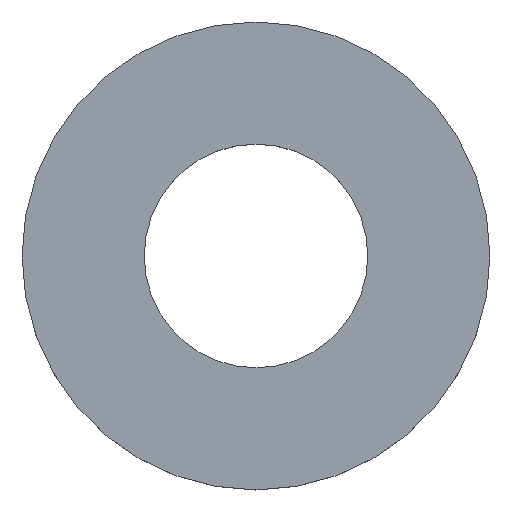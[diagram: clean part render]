
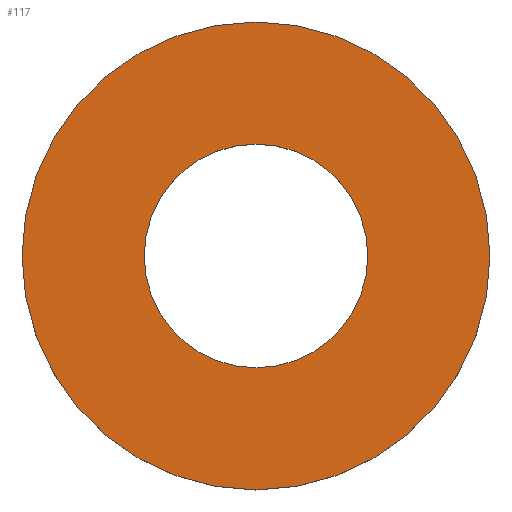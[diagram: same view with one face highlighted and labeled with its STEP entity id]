
A CAD part, top view. The second image highlights one B-rep face of the part: STEP entity #117.
In plain terms, the highlighted planar face has unit normal (0, 0, 1).
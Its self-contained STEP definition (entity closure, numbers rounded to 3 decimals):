
#15 = PLANE ( 'NONE',  #198 ) ;
#17 = EDGE_CURVE ( 'NONE', #120, #156, #153, .T. ) ;
#24 = ORIENTED_EDGE ( 'NONE', *, *, #59, .T. ) ;
#32 = FACE_OUTER_BOUND ( 'NONE', #168, .T. ) ;
#44 = FACE_BOUND ( 'NONE', #77, .T. ) ;
#46 = CARTESIAN_POINT ( 'NONE',  ( 0., 0., 1. ) ) ;
#51 = CIRCLE ( 'NONE', #133, 4.5 ) ;
#59 = EDGE_CURVE ( 'NONE', #172, #66, #134, .T. ) ;
#62 = AXIS2_PLACEMENT_3D ( 'NONE', #183, #74, #130 ) ;
#64 = CARTESIAN_POINT ( 'NONE',  ( 4.5, 0., 1. ) ) ;
#66 = VERTEX_POINT ( 'NONE', #163 ) ;
#68 = DIRECTION ( 'NONE',  ( 1., 0., 0. ) ) ;
#72 = DIRECTION ( 'NONE',  ( 1., 0., 0. ) ) ;
#74 = DIRECTION ( 'NONE',  ( 0., 0., 1. ) ) ;
#76 = CIRCLE ( 'NONE', #62, 2.15 ) ;
#77 = EDGE_LOOP ( 'NONE', ( #78, #105 ) ) ;
#78 = ORIENTED_EDGE ( 'NONE', *, *, #17, .F. ) ;
#80 = AXIS2_PLACEMENT_3D ( 'NONE', #159, #111, #68 ) ;
#88 = CARTESIAN_POINT ( 'NONE',  ( -2.15, 0., 1. ) ) ;
#96 = EDGE_CURVE ( 'NONE', #156, #120, #76, .T. ) ;
#103 = AXIS2_PLACEMENT_3D ( 'NONE', #182, #179, #116 ) ;
#105 = ORIENTED_EDGE ( 'NONE', *, *, #96, .F. ) ;
#111 = DIRECTION ( 'NONE',  ( 0., 0., 1. ) ) ;
#116 = DIRECTION ( 'NONE',  ( 1., 0., 0. ) ) ;
#117 = ADVANCED_FACE ( 'NONE', ( #32, #44 ), #15, .T. ) ;
#120 = VERTEX_POINT ( 'NONE', #88 ) ;
#121 = EDGE_CURVE ( 'NONE', #66, #172, #51, .T. ) ;
#129 = DIRECTION ( 'NONE',  ( 0., 0., 1. ) ) ;
#130 = DIRECTION ( 'NONE',  ( 1., 0., 0. ) ) ;
#131 = CARTESIAN_POINT ( 'NONE',  ( 2.15, 0., 1. ) ) ;
#133 = AXIS2_PLACEMENT_3D ( 'NONE', #197, #129, #195 ) ;
#134 = CIRCLE ( 'NONE', #103, 4.5 ) ;
#144 = DIRECTION ( 'NONE',  ( 0., 0., 1. ) ) ;
#150 = ORIENTED_EDGE ( 'NONE', *, *, #121, .T. ) ;
#153 = CIRCLE ( 'NONE', #80, 2.15 ) ;
#156 = VERTEX_POINT ( 'NONE', #131 ) ;
#159 = CARTESIAN_POINT ( 'NONE',  ( 0., 0., 1. ) ) ;
#163 = CARTESIAN_POINT ( 'NONE',  ( -4.5, 0., 1. ) ) ;
#168 = EDGE_LOOP ( 'NONE', ( #150, #24 ) ) ;
#172 = VERTEX_POINT ( 'NONE', #64 ) ;
#179 = DIRECTION ( 'NONE',  ( 0., 0., 1. ) ) ;
#182 = CARTESIAN_POINT ( 'NONE',  ( 0., 0., 1. ) ) ;
#183 = CARTESIAN_POINT ( 'NONE',  ( 0., 0., 1. ) ) ;
#195 = DIRECTION ( 'NONE',  ( 1., 0., 0. ) ) ;
#197 = CARTESIAN_POINT ( 'NONE',  ( 0., 0., 1. ) ) ;
#198 = AXIS2_PLACEMENT_3D ( 'NONE', #46, #144, #72 ) ;
